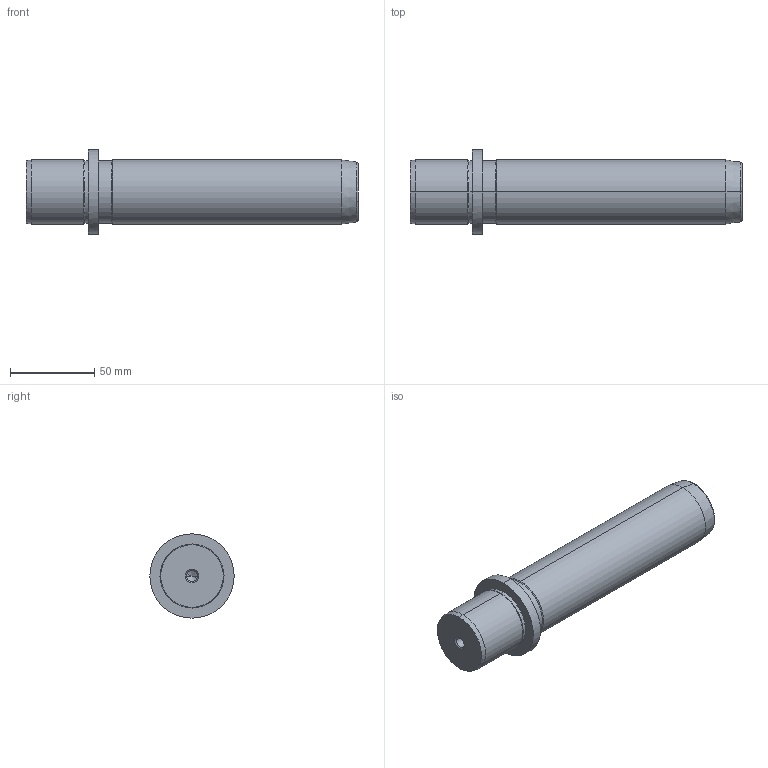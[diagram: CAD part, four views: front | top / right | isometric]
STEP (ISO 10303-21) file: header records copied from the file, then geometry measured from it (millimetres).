
FILE_DESCRIPTION(('CATIA V5 STEP Exchange'),'2;1');
FILE_NAME('C:\Users\Utente\Desktop\IO LAVORO\3D X SITO CF\X SITO\719\719-38x160.stp','2021-01-03T15:39:44+00:00',('none'),('none'),'CATIA Version 5 Release 20 GA (IN-10)','CATIA V5 STEP AP203','none');
FILE_SCHEMA(('CONFIG_CONTROL_DESIGN'));
Length unit declared in the file: millimetre
Products named in the file (1): 719-38x160
Bounding box: 197 x 50 x 50 mm (x, y, z)
Volume: 225216 mm3; surface area: 28525.7 mm2
Topology: 1 solids, 1 shells, 36 faces, 100 edges, 66 vertices
Faces by surface type: cone 16, cylinder 14, plane 4, torus 2
Entity records: 1267 total; most frequent: CARTESIAN_POINT 334, ORIENTED_EDGE 192, DIRECTION 159, EDGE_CURVE 96, AXIS2_PLACEMENT_3D 94, VERTEX_POINT 66, CIRCLE 57, EDGE_LOOP 40
